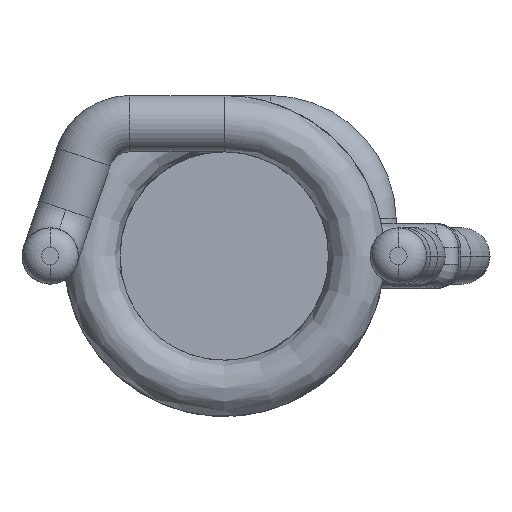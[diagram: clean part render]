
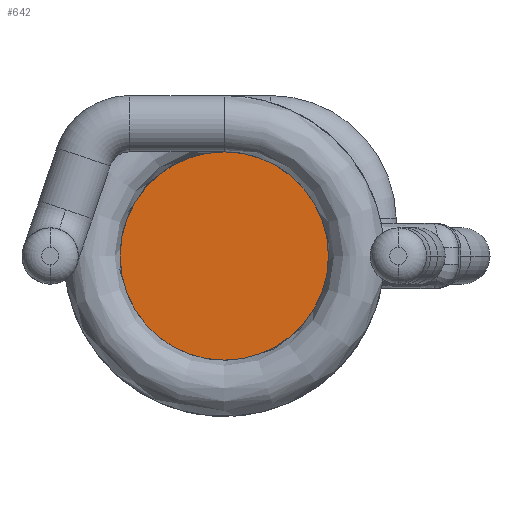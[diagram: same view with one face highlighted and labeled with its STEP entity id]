
A CAD part, front view. The second image highlights one B-rep face of the part: STEP entity #642.
In plain terms, the highlighted planar face has unit normal (0, -1, 0).
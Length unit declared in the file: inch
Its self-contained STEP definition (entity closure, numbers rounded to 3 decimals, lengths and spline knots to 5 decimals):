
#203 = CARTESIAN_POINT ( 'NONE',  ( 0., 0., 0. ) ) ;
#337 = CARTESIAN_POINT ( 'NONE',  ( 0., 0., 0. ) ) ;
#642 = ADVANCED_FACE ( 'NONE', ( #13740 ), #13484, .F. ) ;
#1318 = CARTESIAN_POINT ( 'NONE',  ( 0., 0., 0.12598 ) ) ;
#1417 = DIRECTION ( 'NONE',  ( 0., 0., 1. ) ) ;
#1735 = CIRCLE ( 'NONE', #7007, 0.12598 ) ;
#2197 = EDGE_CURVE ( 'NONE', #14560, #7766, #5890, .T. ) ;
#2293 = DIRECTION ( 'NONE',  ( 0., 1., 0. ) ) ;
#2358 = ORIENTED_EDGE ( 'NONE', *, *, #9457, .F. ) ;
#3188 = DIRECTION ( 'NONE',  ( 0., 0., 1. ) ) ;
#4085 = AXIS2_PLACEMENT_3D ( 'NONE', #337, #2293, #9437 ) ;
#4133 = DIRECTION ( 'NONE',  ( 0., 1., 0. ) ) ;
#4907 = DIRECTION ( 'NONE',  ( 0., 1., 0. ) ) ;
#5359 = EDGE_LOOP ( 'NONE', ( #7512, #2358 ) ) ;
#5672 = AXIS2_PLACEMENT_3D ( 'NONE', #203, #4133, #1417 ) ;
#5890 = CIRCLE ( 'NONE', #4085, 0.12598 ) ;
#7007 = AXIS2_PLACEMENT_3D ( 'NONE', #11302, #4907, #3188 ) ;
#7336 = CARTESIAN_POINT ( 'NONE',  ( 0., 0., -0.12598 ) ) ;
#7512 = ORIENTED_EDGE ( 'NONE', *, *, #2197, .F. ) ;
#7766 = VERTEX_POINT ( 'NONE', #1318 ) ;
#9437 = DIRECTION ( 'NONE',  ( 0., 0., 1. ) ) ;
#9457 = EDGE_CURVE ( 'NONE', #7766, #14560, #1735, .T. ) ;
#11302 = CARTESIAN_POINT ( 'NONE',  ( 0., 0., 0. ) ) ;
#13484 = PLANE ( 'NONE',  #5672 ) ;
#13740 = FACE_OUTER_BOUND ( 'NONE', #5359, .T. ) ;
#14560 = VERTEX_POINT ( 'NONE', #7336 ) ;
